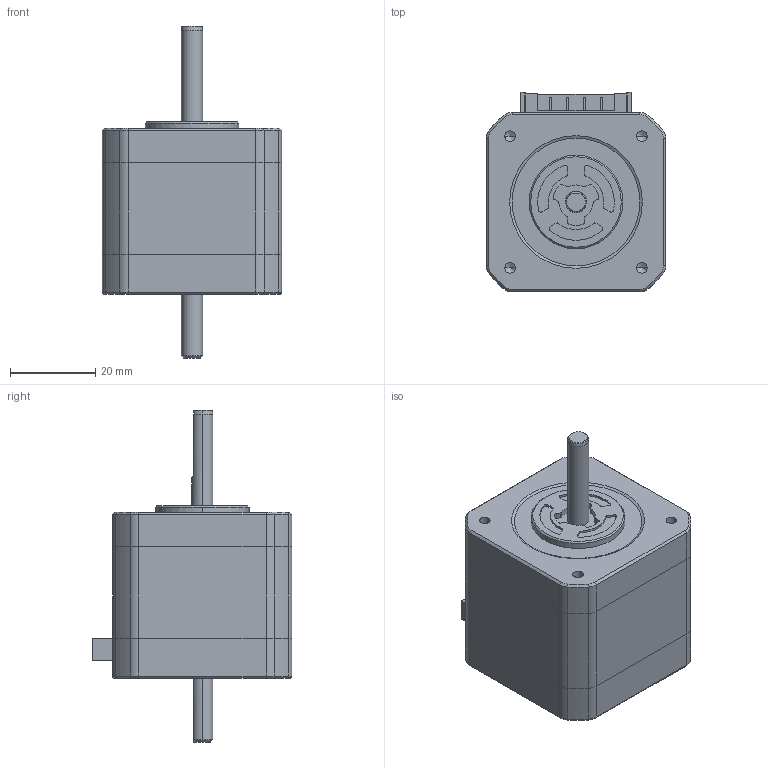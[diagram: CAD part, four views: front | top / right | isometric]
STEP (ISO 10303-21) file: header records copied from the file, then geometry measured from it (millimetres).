
FILE_DESCRIPTION (( 'STEP AP203' ), '1' );
FILE_NAME ('SF2422-10B11.STEP', '2018-10-05T05:06:30', ( '' ), ( '' ), 'SwSTEP 2.0', 'SolidWorks 2017', '' );
FILE_SCHEMA (( 'CONFIG_CONTROL_DESIGN' ));
Length unit declared in the file: millimetre
Products named in the file (1): SF2422-10B11
Bounding box: 42.15 x 46.98 x 78.05 mm (x, y, z)
Volume: 67992.8 mm3; surface area: 19487.1 mm2
Topology: 11 solids, 11 shells, 462 faces, 1161 edges, 735 vertices
Faces by surface type: plane 198, cylinder 185, cone 57, torus 14, bspline 8
Entity records: 13997 total; most frequent: CARTESIAN_POINT 2626, DIRECTION 2476, ORIENTED_EDGE 2294, EDGE_CURVE 1147, AXIS2_PLACEMENT_3D 897, VERTEX_POINT 735, LINE 682, VECTOR 682
